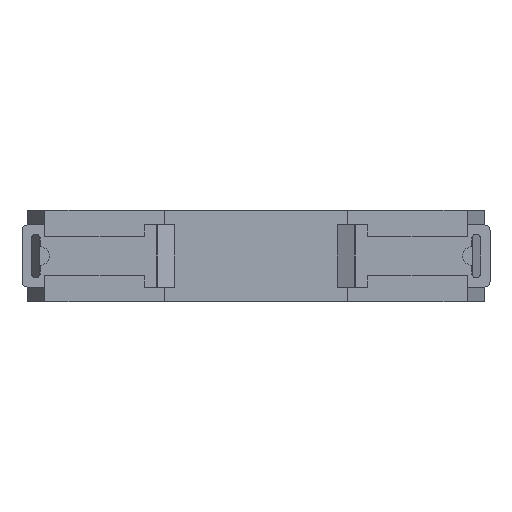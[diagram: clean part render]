
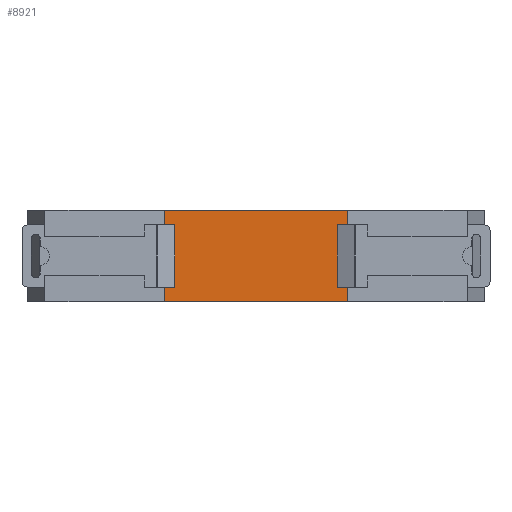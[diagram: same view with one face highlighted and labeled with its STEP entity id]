
A CAD part, left-side view. The second image highlights one B-rep face of the part: STEP entity #8921.
In plain terms, the highlighted planar face has unit normal (-1, 0, 0).
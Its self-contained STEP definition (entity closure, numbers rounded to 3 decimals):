
#304 = DIRECTION ( 'NONE',  ( 0., 0., -1. ) ) ;
#813 = CARTESIAN_POINT ( 'NONE',  ( -60., -40.25, 0. ) ) ;
#844 = DIRECTION ( 'NONE',  ( 0., -1., 0. ) ) ;
#1506 = VECTOR ( 'NONE', #6410, 1000. ) ;
#1580 = DIRECTION ( 'NONE',  ( 0., 1., 0. ) ) ;
#2204 = LINE ( 'NONE', #2304, #2779 ) ;
#2227 = EDGE_CURVE ( 'NONE', #5430, #8370, #6140, .T. ) ;
#2304 = CARTESIAN_POINT ( 'NONE',  ( -60., -4.25, 0. ) ) ;
#2340 = PLANE ( 'NONE',  #5912 ) ;
#2351 = EDGE_CURVE ( 'NONE', #9041, #5611, #5782, .T. ) ;
#2704 = ORIENTED_EDGE ( 'NONE', *, *, #7548, .F. ) ;
#2779 = VECTOR ( 'NONE', #844, 1000. ) ;
#2921 = ORIENTED_EDGE ( 'NONE', *, *, #8956, .T. ) ;
#2991 = CARTESIAN_POINT ( 'NONE',  ( -60., -4.25, 0. ) ) ;
#3286 = CARTESIAN_POINT ( 'NONE',  ( -60., -4.25, 18. ) ) ;
#4215 = CARTESIAN_POINT ( 'NONE',  ( -60., -4.25, 18. ) ) ;
#4916 = DIRECTION ( 'NONE',  ( 0., 0., -1. ) ) ;
#5295 = DIRECTION ( 'NONE',  ( 1., 0., 0. ) ) ;
#5430 = VERTEX_POINT ( 'NONE', #9169 ) ;
#5611 = VERTEX_POINT ( 'NONE', #2991 ) ;
#5696 = CARTESIAN_POINT ( 'NONE',  ( -60., -4.25, 18. ) ) ;
#5782 = LINE ( 'NONE', #5696, #7193 ) ;
#5912 = AXIS2_PLACEMENT_3D ( 'NONE', #7612, #5295, #1580 ) ;
#6140 = LINE ( 'NONE', #7662, #8814 ) ;
#6410 = DIRECTION ( 'NONE',  ( 0., -1., 0. ) ) ;
#6787 = LINE ( 'NONE', #4215, #1506 ) ;
#7193 = VECTOR ( 'NONE', #4916, 1000. ) ;
#7548 = EDGE_CURVE ( 'NONE', #9041, #5430, #6787, .T. ) ;
#7612 = CARTESIAN_POINT ( 'NONE',  ( -60., -4.25, 18. ) ) ;
#7662 = CARTESIAN_POINT ( 'NONE',  ( -60., -40.25, 18. ) ) ;
#8370 = VERTEX_POINT ( 'NONE', #813 ) ;
#8727 = FACE_OUTER_BOUND ( 'NONE', #8870, .T. ) ;
#8814 = VECTOR ( 'NONE', #304, 1000. ) ;
#8870 = EDGE_LOOP ( 'NONE', ( #2921, #8931, #2704, #9258 ) ) ;
#8921 = ADVANCED_FACE ( 'NONE', ( #8727 ), #2340, .F. ) ;
#8931 = ORIENTED_EDGE ( 'NONE', *, *, #2227, .F. ) ;
#8956 = EDGE_CURVE ( 'NONE', #5611, #8370, #2204, .T. ) ;
#9041 = VERTEX_POINT ( 'NONE', #3286 ) ;
#9169 = CARTESIAN_POINT ( 'NONE',  ( -60., -40.25, 18. ) ) ;
#9258 = ORIENTED_EDGE ( 'NONE', *, *, #2351, .T. ) ;
